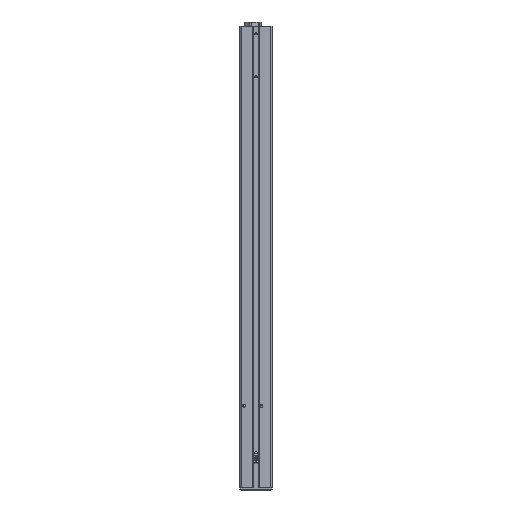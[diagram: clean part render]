
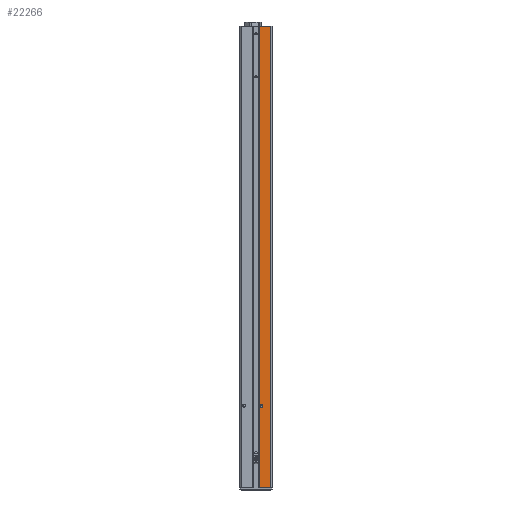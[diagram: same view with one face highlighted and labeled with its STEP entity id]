
A CAD part, top view. The second image highlights one B-rep face of the part: STEP entity #22266.
In plain terms, the highlighted planar face has unit normal (0, 0, 1) as drawn and (-1, 0, 0) by its records, which use the part's own axes.
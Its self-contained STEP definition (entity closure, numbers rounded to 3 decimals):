
#537=PLANE('',#24568);
#1421=LINE('',#32276,#3283);
#2032=LINE('',#35170,#3894);
#2708=LINE('',#37537,#4570);
#2709=LINE('',#37541,#4571);
#3283=VECTOR('',#25641,1000.);
#3894=VECTOR('',#27438,1000.);
#4570=VECTOR('',#29658,1000.);
#4571=VECTOR('',#29663,1000.);
#5792=CIRCLE('',#24569,2.);
#9513=ORIENTED_EDGE('',*,*,#15255,.T.);
#9514=ORIENTED_EDGE('',*,*,#15254,.F.);
#9515=ORIENTED_EDGE('',*,*,#15256,.T.);
#9516=ORIENTED_EDGE('',*,*,#14191,.T.);
#9517=ORIENTED_EDGE('',*,*,#13023,.T.);
#13023=EDGE_CURVE('',#16403,#16402,#1421,.T.);
#14191=EDGE_CURVE('',#17425,#16403,#2032,.T.);
#15254=EDGE_CURVE('',#17987,#16402,#2708,.T.);
#15255=EDGE_CURVE('',#17988,#17988,#5792,.T.);
#15256=EDGE_CURVE('',#17987,#17425,#2709,.T.);
#16402=VERTEX_POINT('',#32275);
#16403=VERTEX_POINT('',#32277);
#17425=VERTEX_POINT('',#35168);
#17987=VERTEX_POINT('',#37536);
#17988=VERTEX_POINT('',#37540);
#19591=EDGE_LOOP('',(#9513));
#19592=EDGE_LOOP('',(#9514,#9515,#9516,#9517));
#20916=FACE_BOUND('',#19591,.T.);
#20917=FACE_BOUND('',#19592,.T.);
#22266=ADVANCED_FACE('',(#20916,#20917),#537,.F.);
#24568=AXIS2_PLACEMENT_3D('',#37538,#29659,#29660);
#24569=AXIS2_PLACEMENT_3D('',#37539,#29661,#29662);
#25641=DIRECTION('',(0.,0.,1.));
#27438=DIRECTION('',(0.,-1.,0.));
#29658=DIRECTION('',(0.,-1.,0.));
#29659=DIRECTION('',(1.,0.,0.));
#29660=DIRECTION('',(0.,0.,-1.));
#29661=DIRECTION('',(1.,0.,0.));
#29662=DIRECTION('',(0.,0.,-1.));
#29663=DIRECTION('',(0.,0.,-1.));
#32275=CARTESIAN_POINT('',(-45.,0.,43.));
#32276=CARTESIAN_POINT('',(-45.,0.,26.5));
#32277=CARTESIAN_POINT('',(-45.,0.,26.7));
#35168=CARTESIAN_POINT('',(-45.,631.,26.7));
#35170=CARTESIAN_POINT('',(-45.,1000.,26.7));
#37536=CARTESIAN_POINT('',(-45.,631.,43.));
#37537=CARTESIAN_POINT('',(-45.,1000.,43.));
#37538=CARTESIAN_POINT('',(-45.,1000.,26.5));
#37539=CARTESIAN_POINT('',(-45.,112.,30.));
#37540=CARTESIAN_POINT('',(-45.,112.,28.));
#37541=CARTESIAN_POINT('',(-45.,631.,26.5));
